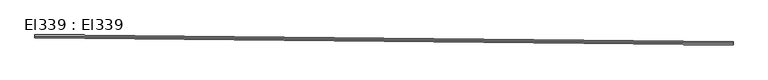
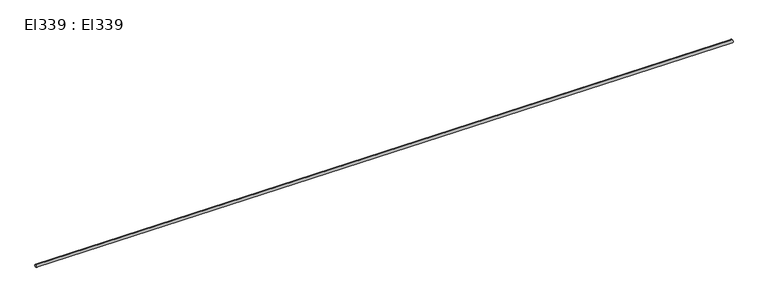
"""IFC4 building model written with IfcOpenShell, lengths in millimetres: cable carrier segment geometry, El339 : El339."""

from ifc_helpers import new_model, si_unit, point, frame, frame_2d, origin, place, context, project, spatial, circle_curve, trimmed, segment, composite_curve, outline, extrude, source, transform, mapped, element, save


def el339_el339_e6dc4eee(model_context):
    return source(origin(), model_context, "Body", "SweptSolid", [
        extrude(outline(composite_curve([segment(trimmed(circle_curve(frame_2d((0.0, -9.5)), 9.5), [point((0.0, -19.0))], [point((0.0, 0.0))], False, "CARTESIAN"), True, "CONTINUOUS"), segment(trimmed(circle_curve(frame_2d((0.0, -9.5)), 9.5), [point((0.0, 0.0))], [point((0.0, -19.0))], False, "CARTESIAN"), True, "CONTINUOUS")], self_intersect=False)), frame((23891.32, 7824.8951, 9.5), z_axis=(-0.9999504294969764, 0.009956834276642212, 0.0), x_axis=(-0.009956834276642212, -0.9999504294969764, 0.0)), (0.0, 0.0, 1.0), 4653.07),
    ])


if __name__ == "__main__":
    model = new_model("IFC4")
    model_context = context("Model", 3, world=origin())
    ifc_project = project(units=[si_unit("LENGTHUNIT", "METRE", prefix="MILLI")], contexts=[model_context])
    site = spatial("IfcSite", under=ifc_project)
    building = spatial("IfcBuilding", under=site)
    placement = place(None, origin())
    el339_el339_shape = el339_el339_e6dc4eee(model_context)
    element("IfcCableCarrierSegment", 1, ObjectType="El339 : El339", at=placement, inside=building, context=model_context, shape_type="MappedRepresentation", body=[
        mapped(el339_el339_shape, transform((0.0, 0.0, 0.0), x_axis=(1.0, 0.0, 0.0), y_axis=(0.0, 1.0, 0.0), z_axis=(0.0, 0.0, 1.0))),
    ])
    save(model, "model.ifc")
